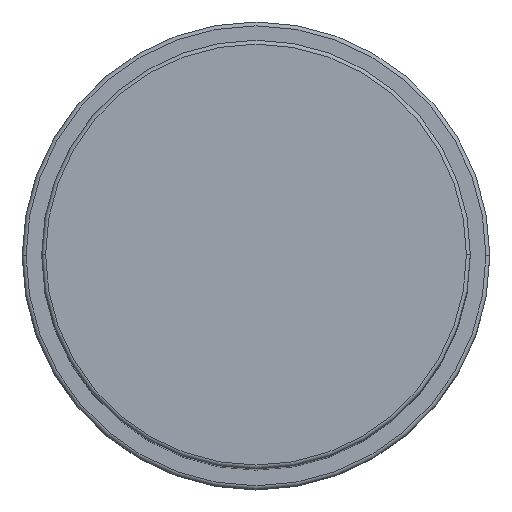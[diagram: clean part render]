
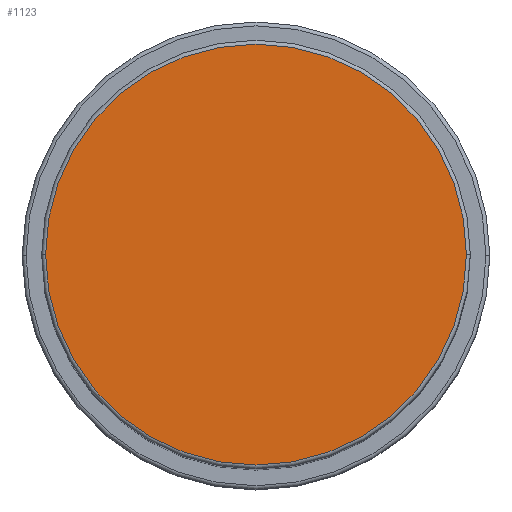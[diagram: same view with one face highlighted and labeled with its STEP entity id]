
A CAD part, top view. The second image highlights one B-rep face of the part: STEP entity #1123.
In plain terms, the highlighted planar face has unit normal (0, 0, 1).
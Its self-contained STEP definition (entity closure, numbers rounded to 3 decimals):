
#45 = DIRECTION ( 'NONE',  ( 0., 0., 1. ) ) ;
#200 = AXIS2_PLACEMENT_3D ( 'NONE', #1292, #1184, #404 ) ;
#204 = ORIENTED_EDGE ( 'NONE', *, *, #1283, .T. ) ;
#270 = EDGE_LOOP ( 'NONE', ( #204, #558 ) ) ;
#323 = CARTESIAN_POINT ( 'NONE',  ( 0., 0., 116. ) ) ;
#325 = EDGE_CURVE ( 'NONE', #1380, #1612, #1095, .T. ) ;
#404 = DIRECTION ( 'NONE',  ( 1., 0., 0. ) ) ;
#425 = FACE_OUTER_BOUND ( 'NONE', #270, .T. ) ;
#463 = CARTESIAN_POINT ( 'NONE',  ( 27., 0., 116. ) ) ;
#558 = ORIENTED_EDGE ( 'NONE', *, *, #325, .T. ) ;
#657 = PLANE ( 'NONE',  #200 ) ;
#731 = DIRECTION ( 'NONE',  ( 0., 0., 1. ) ) ;
#836 = CARTESIAN_POINT ( 'NONE',  ( -27., 0., 116. ) ) ;
#1067 = DIRECTION ( 'NONE',  ( 1., 0., 0. ) ) ;
#1095 = CIRCLE ( 'NONE', #1327, 27. ) ;
#1123 = ADVANCED_FACE ( 'NONE', ( #425 ), #657, .T. ) ;
#1184 = DIRECTION ( 'NONE',  ( 0., 0., 1. ) ) ;
#1283 = EDGE_CURVE ( 'NONE', #1612, #1380, #1559, .T. ) ;
#1292 = CARTESIAN_POINT ( 'NONE',  ( 0., 0., 116. ) ) ;
#1327 = AXIS2_PLACEMENT_3D ( 'NONE', #323, #731, #1353 ) ;
#1353 = DIRECTION ( 'NONE',  ( 1., 0., 0. ) ) ;
#1380 = VERTEX_POINT ( 'NONE', #836 ) ;
#1401 = AXIS2_PLACEMENT_3D ( 'NONE', #1572, #45, #1067 ) ;
#1559 = CIRCLE ( 'NONE', #1401, 27. ) ;
#1572 = CARTESIAN_POINT ( 'NONE',  ( 0., 0., 116. ) ) ;
#1612 = VERTEX_POINT ( 'NONE', #463 ) ;
